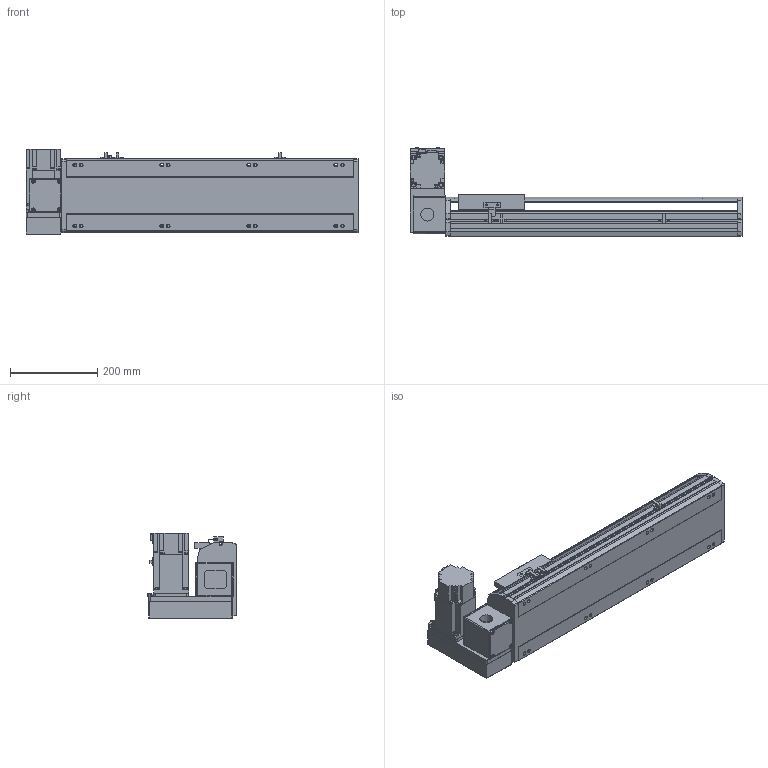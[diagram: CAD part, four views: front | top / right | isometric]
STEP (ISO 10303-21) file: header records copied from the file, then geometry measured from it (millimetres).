
FILE_DESCRIPTION(/* description */ ('STEP AP214'),/* implementation_level */ '2;1');
FILE_NAME(/* name */ 'PBS170-P40-S400-LU-T75-C1-N(0)',/* time_stamp */ '2022-06-07T10:14:10+02:00',/* author */ ('License CC BY-ND 4.0'),/* organization */ ('CADENAS'),/* preprocessor_version */ 'ST-DEVELOPER v18.102',/* originating_system */ 'PARTsolutions',/* authorisation */ ' ');
FILE_SCHEMA (('AUTOMOTIVE_DESIGN {1 0 10303 214 3 1 1}'));
Length unit declared in the file: millimetre
Products named in the file (7): PBS170-P40-S400-LU-T75-C1-N(0); PBS170_sensor; PBS170_plant; PBS170_sliser; T75-p1; PBS170T-LU_motors; PBS170-S400()_body
Assembly tree (8 placements, depth 2):
  PBS170-P40-S400-LU-T75-C1-N(0)
    PBS170_sensor  x3
    PBS170_plant
    PBS170_sliser
    T75-p1
    PBS170T-LU_motors
    PBS170-S400()_body
Bounding box: 763 x 206 x 197.3 mm (x, y, z)
Volume: 6717485.5 mm3; surface area: 923495.1 mm2
Topology: 8 solids, 8 shells, 1018 faces, 2715 edges, 1770 vertices
Faces by surface type: plane 663, cylinder 307, cone 38, sphere 8, torus 2
Full cylindrical faces by diameter (mm): 3.242 x4, 4 x2, 4.4 x4, 4.5 x6, 4.917 x4, 6 x9, 6.647 x16, 7 x2, 7.5 x4, 8 x8, 8.5 x8, 10 x4, 10.5 x8, 11 x2, 30 x2, 40 x1, 70 x1
Entity records: 29286 total; most frequent: CARTESIAN_POINT 5265, DIRECTION 5020, ORIENTED_EDGE 4788, EDGE_CURVE 2394, AXIS2_PLACEMENT_3D 1717, VERTEX_POINT 1634, LINE 1586, VECTOR 1586
